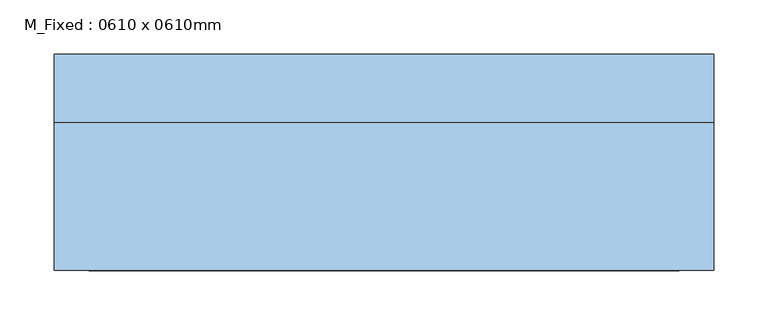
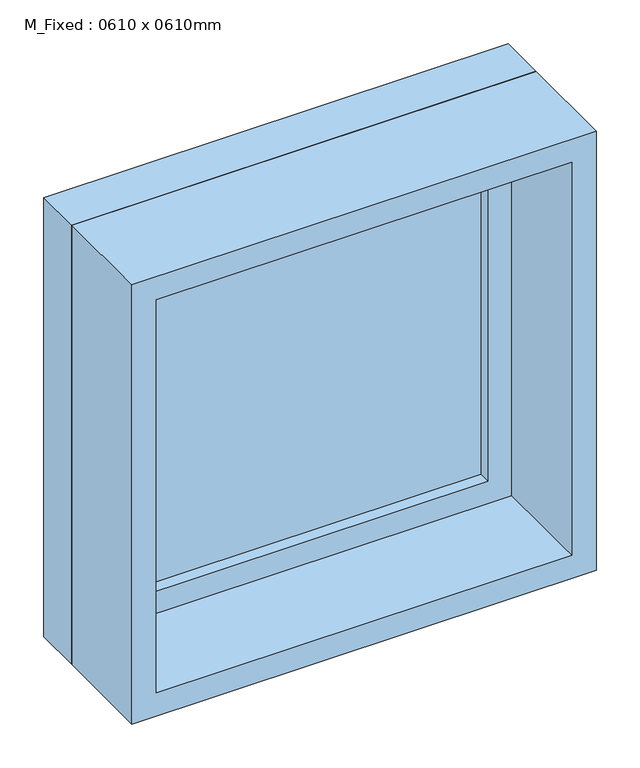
"""IFC4 building model written with IfcOpenShell, lengths in millimetres: window geometry, M_Fixed : 0610 x 0610mm."""

from ifc_helpers import new_model, si_unit, frame, origin, place, context, project, spatial, polyline, outline, extrude, source, transform, mapped, element, save


def m_fixed_0610_x_0610mm_cacddef9(model_context):
    return source(origin(), model_context, "Body", "SweptSolid", [
        extrude(outline(polyline([(-242.0, 78.0), (242.0, 78.0), (242.0, 66.0), (-242.0, 66.0), (-242.0, 78.0)])), frame((0.0, 0.0, 978.0), z_axis=(0.0, 0.0, 1.0), x_axis=(1.0, 0.0, 0.0)), (0.0, 0.0, 1.0), 484.0),
        extrude(outline(polyline([(1506.0, -286.0), (934.0, -286.0), (934.0, 286.0), (1506.0, 286.0), (1506.0, -286.0)]), holes=[polyline([(1462.0, -242.0), (1462.0, 242.0), (978.0, 242.0), (978.0, -242.0), (1462.0, -242.0)])]), frame((0.0, 50.0, 0.0), z_axis=(0.0, 1.0, 0.0), x_axis=(0.0, 0.0, 1.0)), (0.0, 0.0, 1.0), 44.0),
        extrude(outline(polyline([(1525.0, -305.0), (915.0, -305.0), (915.0, 305.0), (1525.0, 305.0), (1525.0, -305.0)]), holes=[polyline([(1506.0, -286.0), (1506.0, 286.0), (934.0, 286.0), (934.0, -286.0), (1506.0, -286.0)])]), frame((0.0, 50.0, 0.0), z_axis=(0.0, 1.0, 0.0), x_axis=(0.0, 0.0, 1.0)), (0.0, 0.0, 1.0), 63.0),
        extrude(outline(polyline([(1525.0, -305.0), (915.0, -305.0), (915.0, 305.0), (1525.0, 305.0), (1525.0, -305.0)]), holes=[polyline([(1493.0, -273.0), (1493.0, 273.0), (947.0, 273.0), (947.0, -273.0), (1493.0, -273.0)])]), frame((0.0, -87.0, 0.0), z_axis=(0.0, 1.0, 0.0), x_axis=(0.0, 0.0, 1.0)), (0.0, 0.0, 1.0), 137.0),
    ])


if __name__ == "__main__":
    model = new_model("IFC4")
    model_context = context("Model", 3, world=origin())
    ifc_project = project(units=[si_unit("LENGTHUNIT", "METRE", prefix="MILLI")], contexts=[model_context])
    site = spatial("IfcSite", under=ifc_project)
    building = spatial("IfcBuilding", under=site)
    placement = place(None, origin())
    m_fixed_0610_x_0610mm_shape = m_fixed_0610_x_0610mm_cacddef9(model_context)
    element("IfcWindow", 1, ObjectType="M_Fixed : 0610 x 0610mm", at=placement, inside=building, context=model_context, shape_type="MappedRepresentation", body=[
        mapped(m_fixed_0610_x_0610mm_shape, transform((0.0, 0.0, 0.0), x_axis=(1.0, 0.0, 0.0), y_axis=(0.0, 1.0, 0.0), z_axis=(0.0, 0.0, 1.0))),
    ])
    save(model, "model.ifc")
